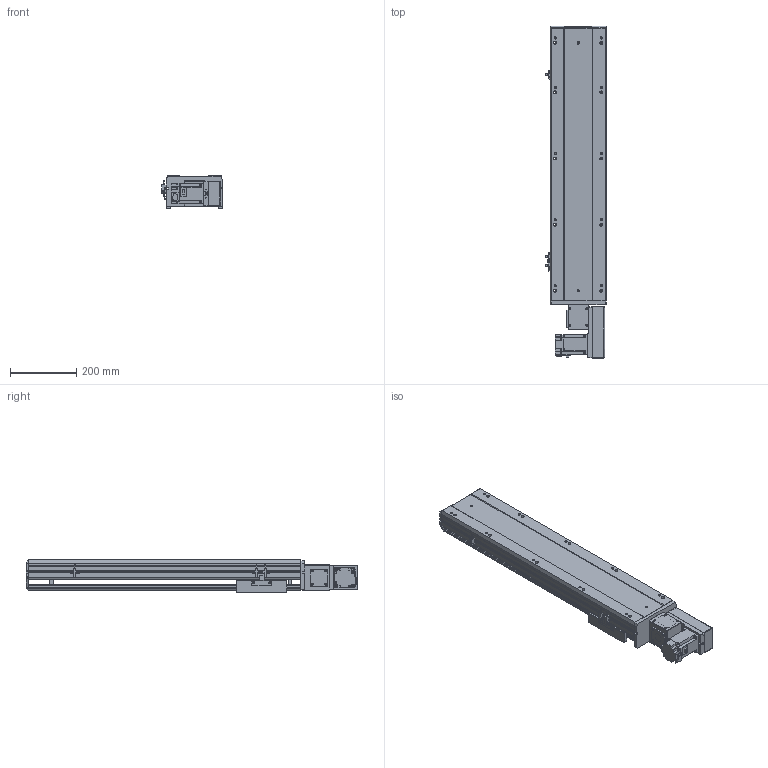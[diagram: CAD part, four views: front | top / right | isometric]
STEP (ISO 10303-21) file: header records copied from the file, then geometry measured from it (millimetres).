
FILE_DESCRIPTION (( 'STEP AP203' ), '1' );
FILE_NAME ('BTB17-L40-550-L-M40-C4.STEP', '2022-07-20T02:42:48', ( 'CXY' ), ( 'BT' ), 'SwSTEP 2.0', 'SolidWorks 2016', '' );
FILE_SCHEMA (( 'CONFIG_CONTROL_DESIGN' ));
Length unit declared in the file: millimetre
Products named in the file (11): BTB17-L-06; BTB17-L-01; BTB17-L-24; BTB17-L-HZ; FS-08-T40; FS-07-T40(1); M40; BTB17-L40-550-L-M40-C4; BTB17-L-23; BTB17-L-04; BTB17-L-菁釱_XD
Assembly tree (13 placements, depth 2):
  BTB17-L40-550-L-M40-C4
    BTB17-L-菁釱_XD
    BTB17-L-01
    BTB17-L-04  x3
    BTB17-L-06
    BTB17-L-23  x2
    BTB17-L-24
    BTB17-L-HZ
    FS-07-T40(1)
    FS-08-T40
    M40
Bounding box: 183.7 x 1004.5 x 97 mm (x, y, z)
Volume: 8082051 mm3; surface area: 1175198 mm2
Topology: 22 solids, 22 shells, 1579 faces, 4163 edges, 2644 vertices
Faces by surface type: plane 903, cylinder 500, cone 144, torus 16, bspline 16
Entity records: 40966 total; most frequent: CARTESIAN_POINT 8086, DIRECTION 6653, ORIENTED_EDGE 6494, EDGE_CURVE 3247, AXIS2_PLACEMENT_3D 2233, VECTOR 2187, LINE 2187, VERTEX_POINT 2112
